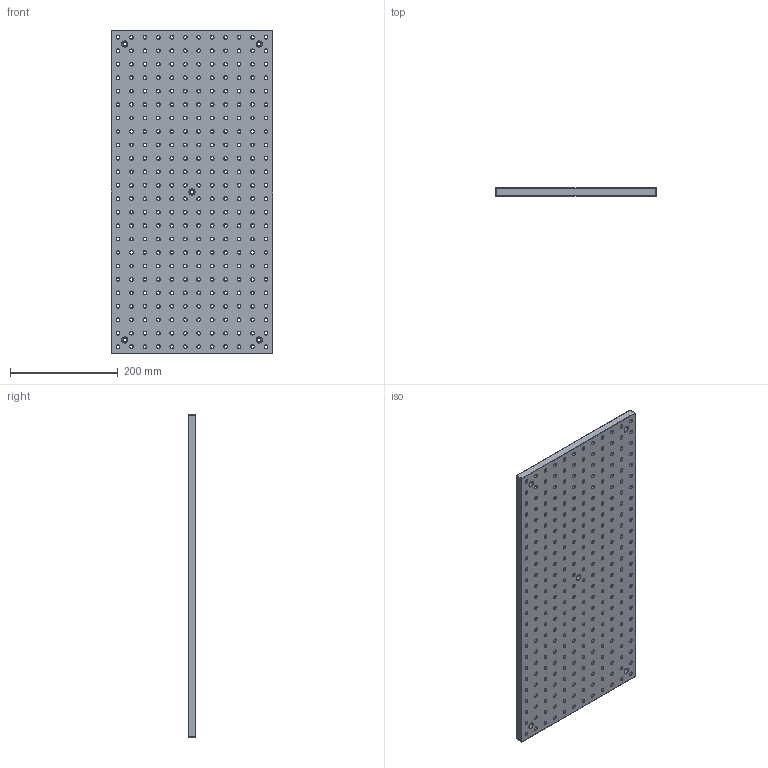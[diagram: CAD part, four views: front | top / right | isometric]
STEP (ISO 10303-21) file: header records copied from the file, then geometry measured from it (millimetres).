
FILE_DESCRIPTION((''),'2;1');
FILE_NAME('OHD-3060','2020-11-18T',('Administrator'),(''),'CREO PARAMETRIC BY PTC INC, 2017300','CREO PARAMETRIC BY PTC INC, 2017300','');
FILE_SCHEMA(('CONFIG_CONTROL_DESIGN'));
Length unit declared in the file: millimetre
Products named in the file (1): OHD-3060
Bounding box: 300 x 14 x 600 mm (x, y, z)
Volume: 2399279.3 mm3; surface area: 442947 mm2
Topology: 1 solids, 1 shells, 1781 faces, 4160 edges, 2386 vertices
Faces by surface type: cone 1162, cylinder 600, plane 19
Entity records: 51718 total; most frequent: DIRECTION 10068, CARTESIAN_POINT 8347, ORIENTED_EDGE 8320, EDGE_CURVE 4160, AXIS2_PLACEMENT_3D 4143, VERTEX_POINT 2386, EDGE_LOOP 2372, CIRCLE 2362
